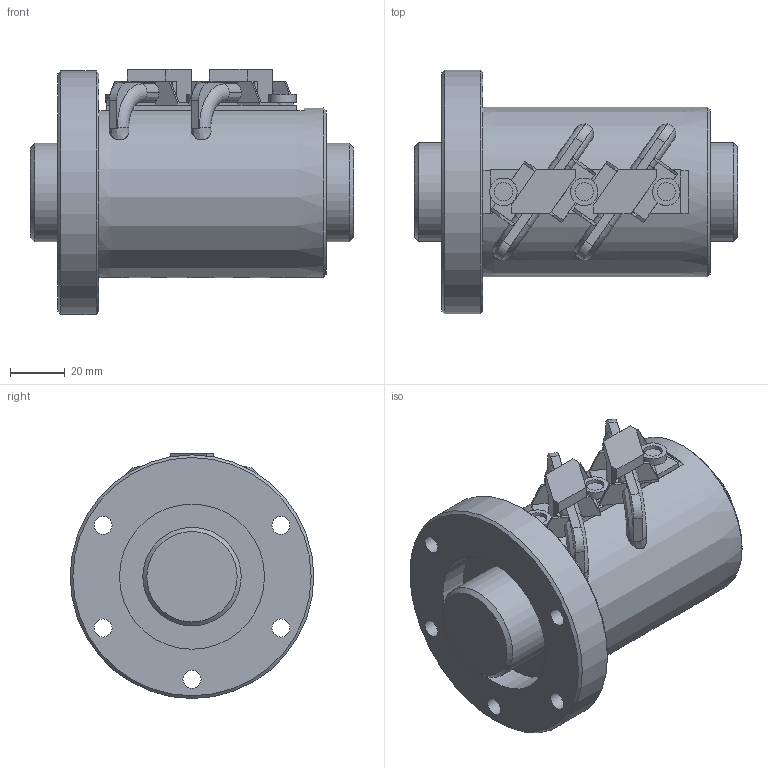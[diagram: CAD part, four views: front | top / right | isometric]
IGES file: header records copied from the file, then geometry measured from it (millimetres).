
Start section: Data from Parasolid IGES Translator 26.0.171, Copyright(c) 2006 Siemens PLM Software. All Rights Reserved.
Global section: file name: HBN3610-5RRG2+118LC0(0G200)_rev.igs; native system: By Siemens PLM Incorporated; preprocessor: XPlus GENERIC/IGES 26.0.171; author: Noname; organization: Noname; date: 20240704.081717; units: millimetre
Bounding box: 118 x 89 x 89.5 mm (x, y, z)
Surface area: 67096.9 mm2 (no closed solid volume)
Topology: 0 solids, 0 shells, 185 faces, 1062 edges, 1021 vertices
Faces by surface type: extrusion 136, revolution 49
